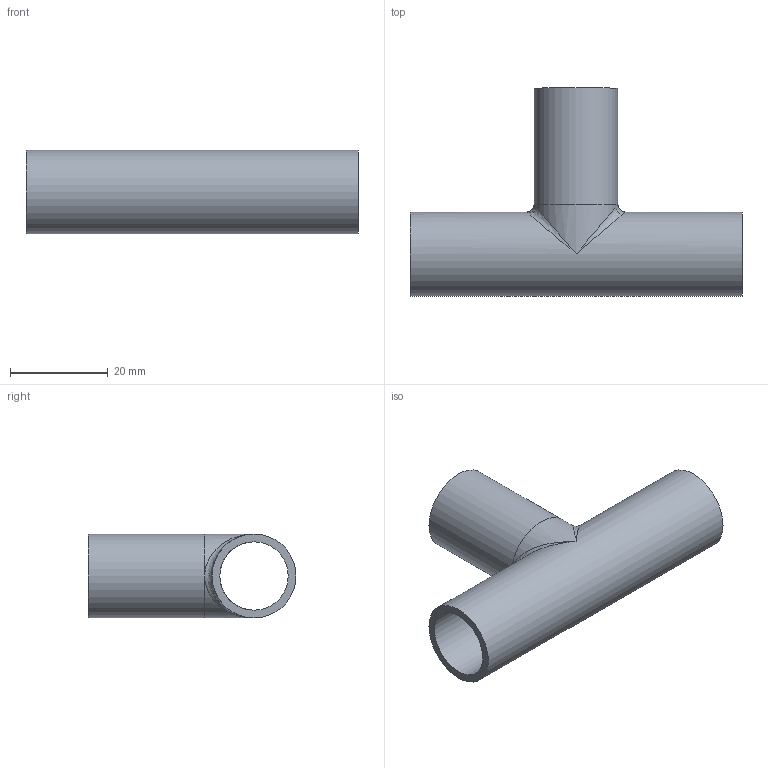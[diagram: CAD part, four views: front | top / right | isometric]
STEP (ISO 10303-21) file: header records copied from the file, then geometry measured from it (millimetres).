
FILE_DESCRIPTION(/* description */ ('DOCKWEILER AG - 19306 Germany - An der Autobahn 10/20'),/* implementation_level */ '2;1');
FILE_NAME(/* name */ '\\Dwgfs01\cad\CAD\Projekte\N0010_001_001_001\T_17,2x1,6_17,2x1,6_L68_l34_V00.ipt.stp',/* time_stamp */ '2014-07-04T12:10:10+02:00',/* author */ ('DOCKWEILER AG - 19306 Germany - An der Autobahn 10/20'),/* organization */ ('DOCKWEILER AG - 19306 Germany - An der Autobahn 10/20'),/* preprocessor_version */ 'ST-DEVELOPER v15.6',/* originating_system */ 'Autodesk Inventor 2015',/* authorisation */ '');
FILE_SCHEMA (('CONFIG_CONTROL_DESIGN'));
Length unit declared in the file: millimetre
Products named in the file (1): T_17,2x1,6_17,2x1,6_L68_l34_V00
Bounding box: 68 x 42.6 x 17.2 mm (x, y, z)
Volume: 7218.7 mm3; surface area: 9383.7 mm2
Topology: 2 solids, 2 shells, 16 faces, 41 edges, 20 vertices
Faces by surface type: cylinder 7, plane 5, bspline 4
Full cylindrical faces by diameter (mm): 14 x3, 17.2 x2
Entity records: 1315 total; most frequent: CARTESIAN_POINT 979, DIRECTION 68, ORIENTED_EDGE 42, AXIS2_PLACEMENT_3D 34, EDGE_LOOP 28, EDGE_CURVE 21, STYLED_ITEM 18, FACE_OUTER_BOUND 16
